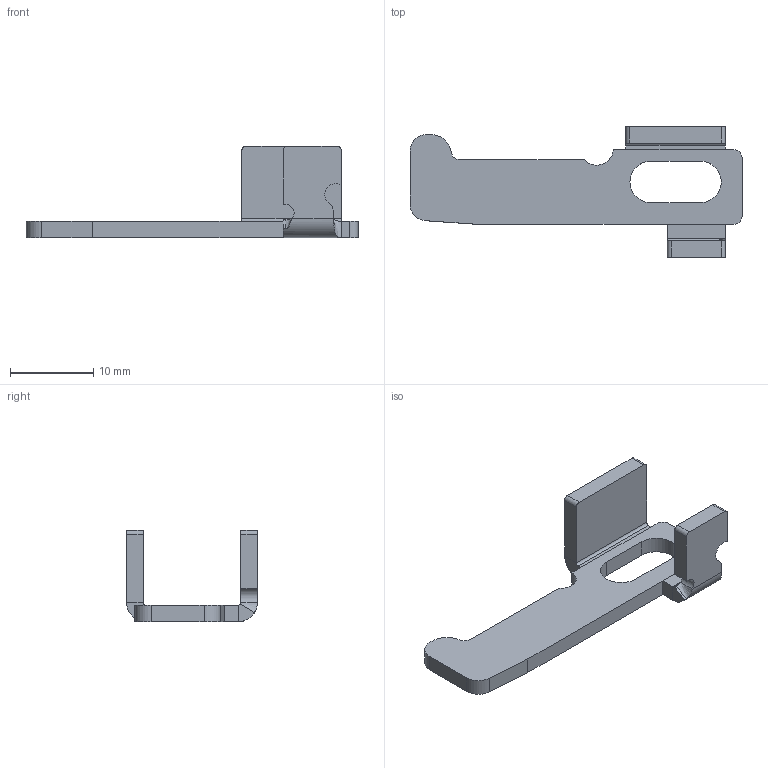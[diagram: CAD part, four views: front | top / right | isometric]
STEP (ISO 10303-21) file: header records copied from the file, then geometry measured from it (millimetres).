
FILE_DESCRIPTION(('CATIA V5 STEP Exchange'),'2;1');
FILE_NAME('C:\model\lock-001.44.009.41_1.1.1.1.stp','2022-08-26T10:54:28+00:00',('none'),('none'),'CATIA Version 5 Release 19 SP 8 (IN-10)','CATIA V5 STEP AP214','none');
FILE_SCHEMA(('AUTOMOTIVE_DESIGN { 1 0 10303 214 1 1 1 1 }'));
Length unit declared in the file: millimetre
Products named in the file (1): lock-001.44.009.41_1.1.1.1
Bounding box: 40 x 15.76 x 11 mm (x, y, z)
Volume: 1001.3 mm3; surface area: 1356.8 mm2
Topology: 1 solids, 1 shells, 61 faces, 153 edges, 94 vertices
Faces by surface type: plane 38, cylinder 21, bspline 2
Entity records: 1880 total; most frequent: CARTESIAN_POINT 434, ORIENTED_EDGE 306, DIRECTION 261, EDGE_CURVE 153, VECTOR 106, LINE 106, AXIS2_PLACEMENT_3D 99, VERTEX_POINT 94
